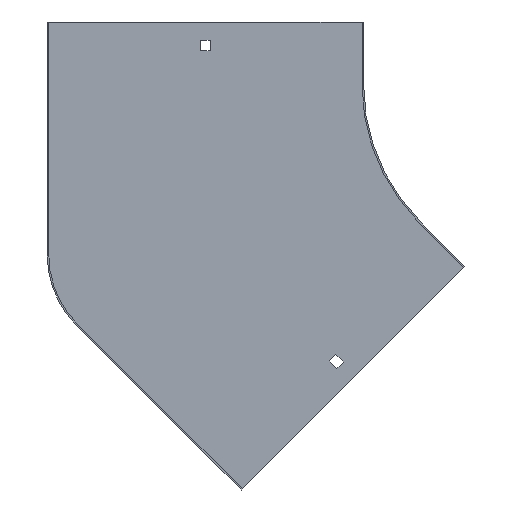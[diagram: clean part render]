
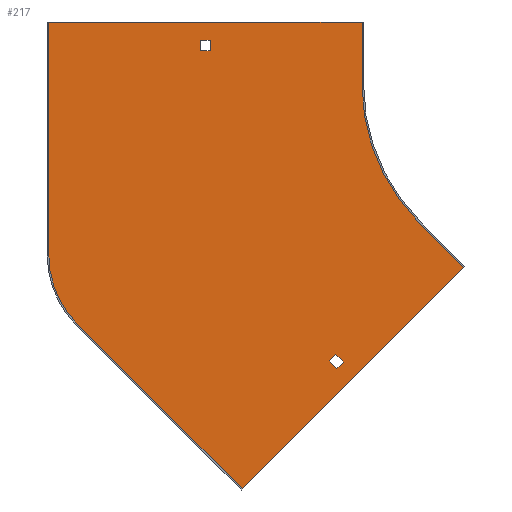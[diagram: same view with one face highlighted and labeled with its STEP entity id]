
A CAD part, front view. The second image highlights one B-rep face of the part: STEP entity #217.
In plain terms, the highlighted planar face has unit normal (0, -1, 0).
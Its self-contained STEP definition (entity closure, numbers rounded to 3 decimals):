
#5 = VERTEX_POINT ( 'NONE', #602 ) ;
#7 = CARTESIAN_POINT ( 'NONE',  ( -326., -1., 40. ) ) ;
#10 = VECTOR ( 'NONE', #352, 1000. ) ;
#13 = CARTESIAN_POINT ( 'NONE',  ( -156.978, -1., -156.978 ) ) ;
#31 = DIRECTION ( 'NONE',  ( 0.707, 0., -0.707 ) ) ;
#32 = CARTESIAN_POINT ( 'NONE',  ( -262.5, -1., -108.731 ) ) ;
#46 = LINE ( 'NONE', #777, #846 ) ;
#58 = DIRECTION ( 'NONE',  ( 1., 0., 0. ) ) ;
#66 = DIRECTION ( 'NONE',  ( 0.707, 0., -0.707 ) ) ;
#78 = EDGE_CURVE ( 'NONE', #312, #89, #264, .T. ) ;
#79 = LINE ( 'NONE', #225, #10 ) ;
#89 = VERTEX_POINT ( 'NONE', #521 ) ;
#94 = CARTESIAN_POINT ( 'NONE',  ( 0., -1., 0. ) ) ;
#106 = CARTESIAN_POINT ( 'NONE',  ( -325., -1., -108.731 ) ) ;
#109 = CARTESIAN_POINT ( 'NONE',  ( -325., -1., -108.731 ) ) ;
#137 = VERTEX_POINT ( 'NONE', #388 ) ;
#143 = CARTESIAN_POINT ( 'NONE',  ( -125., -1., 40. ) ) ;
#166 = DIRECTION ( 'NONE',  ( 0., 0., 1. ) ) ;
#174 = ORIENTED_EDGE ( 'NONE', *, *, #570, .F. ) ;
#177 = EDGE_CURVE ( 'NONE', #631, #343, #737, .T. ) ;
#184 = AXIS2_PLACEMENT_3D ( 'NONE', #94, #556, #219 ) ;
#185 = VECTOR ( 'NONE', #716, 1000. ) ;
#200 = CARTESIAN_POINT ( 'NONE',  ( -228., -1., 28.5 ) ) ;
#201 = ORIENTED_EDGE ( 'NONE', *, *, #177, .F. ) ;
#203 = ORIENTED_EDGE ( 'NONE', *, *, #377, .T. ) ;
#213 = PLANE ( 'NONE',  #184 ) ;
#217 = ADVANCED_FACE ( 'NONE', ( #413, #495, #350 ), #213, .T. ) ;
#219 = DIRECTION ( 'NONE',  ( 0., 0., -1. ) ) ;
#220 = ORIENTED_EDGE ( 'NONE', *, *, #361, .F. ) ;
#223 = DIRECTION ( 'NONE',  ( -1., 0., 0. ) ) ;
#225 = CARTESIAN_POINT ( 'NONE',  ( -125., -1., 40. ) ) ;
#230 = VECTOR ( 'NONE', #449, 1000. ) ;
#236 = ORIENTED_EDGE ( 'NONE', *, *, #592, .F. ) ;
#247 = CARTESIAN_POINT ( 'NONE',  ( 15.203, -1., -15.203 ) ) ;
#256 = EDGE_CURVE ( 'NONE', #137, #730, #698, .T. ) ;
#260 = VERTEX_POINT ( 'NONE', #430 ) ;
#264 = LINE ( 'NONE', #666, #439 ) ;
#271 = EDGE_LOOP ( 'NONE', ( #236, #395, #851, #403 ) ) ;
#276 = CARTESIAN_POINT ( 'NONE',  ( -228., -1., 0. ) ) ;
#284 = VECTOR ( 'NONE', #31, 1000. ) ;
#290 = CARTESIAN_POINT ( 'NONE',  ( -306.694, -1., -152.925 ) ) ;
#292 = ORIENTED_EDGE ( 'NONE', *, *, #256, .T. ) ;
#300 = ORIENTED_EDGE ( 'NONE', *, *, #535, .F. ) ;
#311 = DIRECTION ( 'NONE',  ( -0.707, 0., 0.707 ) ) ;
#312 = VERTEX_POINT ( 'NONE', #385 ) ;
#314 = EDGE_CURVE ( 'NONE', #89, #5, #782, .T. ) ;
#320 = CARTESIAN_POINT ( 'NONE',  ( -125., -1., 0. ) ) ;
#332 = CARTESIAN_POINT ( 'NONE',  ( 0., -1., 0. ) ) ;
#336 = VERTEX_POINT ( 'NONE', #443 ) ;
#339 = DIRECTION ( 'NONE',  ( 1., 0., 0. ) ) ;
#342 = LINE ( 'NONE', #626, #284 ) ;
#343 = VERTEX_POINT ( 'NONE', #106 ) ;
#346 = CARTESIAN_POINT ( 'NONE',  ( 0., -1., 28.5 ) ) ;
#348 = EDGE_LOOP ( 'NONE', ( #753, #203, #292, #703 ) ) ;
#350 = FACE_BOUND ( 'NONE', #348, .T. ) ;
#352 = DIRECTION ( 'NONE',  ( 0., 0., -1. ) ) ;
#356 = VECTOR ( 'NONE', #166, 1000. ) ;
#359 = CARTESIAN_POINT ( 'NONE',  ( 0., -1., 21.5 ) ) ;
#361 = EDGE_CURVE ( 'NONE', #343, #260, #836, .T. ) ;
#368 = AXIS2_PLACEMENT_3D ( 'NONE', #32, #627, #813 ) ;
#371 = DIRECTION ( 'NONE',  ( 0., 0., -1. ) ) ;
#377 = EDGE_CURVE ( 'NONE', #829, #137, #514, .T. ) ;
#385 = CARTESIAN_POINT ( 'NONE',  ( -146.018, -1., -176.423 ) ) ;
#388 = CARTESIAN_POINT ( 'NONE',  ( -222., -1., 21.5 ) ) ;
#395 = ORIENTED_EDGE ( 'NONE', *, *, #314, .F. ) ;
#403 = ORIENTED_EDGE ( 'NONE', *, *, #435, .F. ) ;
#407 = EDGE_CURVE ( 'NONE', #797, #534, #652, .T. ) ;
#413 = FACE_BOUND ( 'NONE', #271, .T. ) ;
#415 = DIRECTION ( 'NONE',  ( -0.707, 0., 0.707 ) ) ;
#416 = VERTEX_POINT ( 'NONE', #508 ) ;
#418 = LINE ( 'NONE', #346, #498 ) ;
#420 = EDGE_CURVE ( 'NONE', #534, #631, #46, .T. ) ;
#424 = EDGE_LOOP ( 'NONE', ( #300, #220, #201, #715, #460, #478, #599, #174 ) ) ;
#430 = CARTESIAN_POINT ( 'NONE',  ( -325., -1., 40. ) ) ;
#435 = EDGE_CURVE ( 'NONE', #336, #312, #850, .T. ) ;
#436 = CARTESIAN_POINT ( 'NONE',  ( -60.104, -1., -116.673 ) ) ;
#439 = VECTOR ( 'NONE', #66, 1000. ) ;
#441 = CARTESIAN_POINT ( 'NONE',  ( -222., -1., 28.5 ) ) ;
#443 = CARTESIAN_POINT ( 'NONE',  ( -141.775, -1., -172.181 ) ) ;
#449 = DIRECTION ( 'NONE',  ( -0.707, 0., -0.707 ) ) ;
#460 = ORIENTED_EDGE ( 'NONE', *, *, #407, .F. ) ;
#467 = VECTOR ( 'NONE', #563, 1000. ) ;
#478 = ORIENTED_EDGE ( 'NONE', *, *, #692, .F. ) ;
#490 = EDGE_CURVE ( 'NONE', #538, #416, #711, .T. ) ;
#495 = FACE_OUTER_BOUND ( 'NONE', #424, .T. ) ;
#498 = VECTOR ( 'NONE', #339, 1000. ) ;
#508 = CARTESIAN_POINT ( 'NONE',  ( -88.388, -1., -88.388 ) ) ;
#514 = LINE ( 'NONE', #568, #792 ) ;
#515 = VERTEX_POINT ( 'NONE', #200 ) ;
#516 = CARTESIAN_POINT ( 'NONE',  ( -228., -1., 21.5 ) ) ;
#521 = CARTESIAN_POINT ( 'NONE',  ( -141.068, -1., -181.373 ) ) ;
#534 = VERTEX_POINT ( 'NONE', #607 ) ;
#535 = EDGE_CURVE ( 'NONE', #260, #605, #656, .T. ) ;
#538 = VERTEX_POINT ( 'NONE', #320 ) ;
#556 = DIRECTION ( 'NONE',  ( 0., -1., 0. ) ) ;
#563 = DIRECTION ( 'NONE',  ( -0.707, 0., -0.707 ) ) ;
#568 = CARTESIAN_POINT ( 'NONE',  ( -222., -1., 0. ) ) ;
#570 = EDGE_CURVE ( 'NONE', #605, #538, #79, .T. ) ;
#572 = CARTESIAN_POINT ( 'NONE',  ( -59.397, -1., -115.966 ) ) ;
#592 = EDGE_CURVE ( 'NONE', #5, #336, #616, .T. ) ;
#594 = VECTOR ( 'NONE', #415, 1000. ) ;
#599 = ORIENTED_EDGE ( 'NONE', *, *, #490, .F. ) ;
#602 = CARTESIAN_POINT ( 'NONE',  ( -136.825, -1., -177.13 ) ) ;
#605 = VERTEX_POINT ( 'NONE', #143 ) ;
#607 = CARTESIAN_POINT ( 'NONE',  ( -201.525, -1., -258.094 ) ) ;
#614 = LINE ( 'NONE', #276, #185 ) ;
#616 = LINE ( 'NONE', #13, #594 ) ;
#626 = CARTESIAN_POINT ( 'NONE',  ( -88.388, -1., -88.388 ) ) ;
#627 = DIRECTION ( 'NONE',  ( 0., 1., 0. ) ) ;
#631 = VERTEX_POINT ( 'NONE', #290 ) ;
#641 = EDGE_CURVE ( 'NONE', #515, #829, #418, .T. ) ;
#652 = LINE ( 'NONE', #572, #230 ) ;
#656 = LINE ( 'NONE', #7, #859 ) ;
#666 = CARTESIAN_POINT ( 'NONE',  ( -161.22, -1., -161.22 ) ) ;
#680 = VECTOR ( 'NONE', #223, 1000. ) ;
#692 = EDGE_CURVE ( 'NONE', #416, #797, #342, .T. ) ;
#698 = LINE ( 'NONE', #359, #680 ) ;
#700 = EDGE_CURVE ( 'NONE', #730, #515, #614, .T. ) ;
#703 = ORIENTED_EDGE ( 'NONE', *, *, #700, .T. ) ;
#709 = DIRECTION ( 'NONE',  ( 0.707, 0., 0.707 ) ) ;
#711 = CIRCLE ( 'NONE', #832, 125. ) ;
#715 = ORIENTED_EDGE ( 'NONE', *, *, #420, .F. ) ;
#716 = DIRECTION ( 'NONE',  ( 0., 0., 1. ) ) ;
#717 = CARTESIAN_POINT ( 'NONE',  ( 20.153, -1., -20.153 ) ) ;
#723 = VECTOR ( 'NONE', #709, 1000. ) ;
#730 = VERTEX_POINT ( 'NONE', #516 ) ;
#737 = CIRCLE ( 'NONE', #368, 62.5 ) ;
#753 = ORIENTED_EDGE ( 'NONE', *, *, #641, .T. ) ;
#777 = CARTESIAN_POINT ( 'NONE',  ( -201.525, -1., -258.094 ) ) ;
#782 = LINE ( 'NONE', #717, #723 ) ;
#792 = VECTOR ( 'NONE', #371, 1000. ) ;
#796 = DIRECTION ( 'NONE',  ( 0., 0., -1. ) ) ;
#797 = VERTEX_POINT ( 'NONE', #436 ) ;
#805 = DIRECTION ( 'NONE',  ( 0., -1., 0. ) ) ;
#813 = DIRECTION ( 'NONE',  ( 0., 0., -1. ) ) ;
#829 = VERTEX_POINT ( 'NONE', #441 ) ;
#832 = AXIS2_PLACEMENT_3D ( 'NONE', #332, #805, #796 ) ;
#836 = LINE ( 'NONE', #109, #356 ) ;
#846 = VECTOR ( 'NONE', #311, 1000. ) ;
#850 = LINE ( 'NONE', #247, #467 ) ;
#851 = ORIENTED_EDGE ( 'NONE', *, *, #78, .F. ) ;
#859 = VECTOR ( 'NONE', #58, 1000. ) ;
